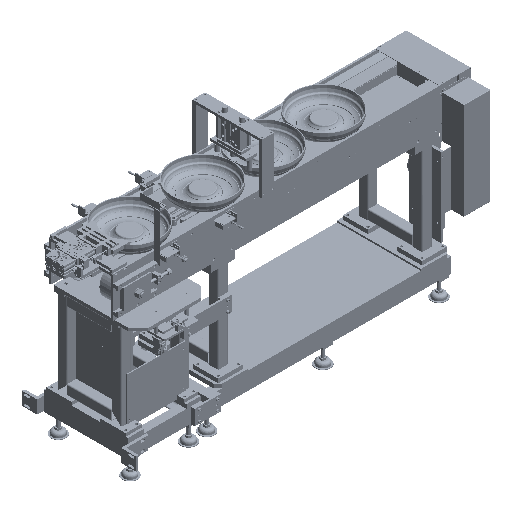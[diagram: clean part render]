
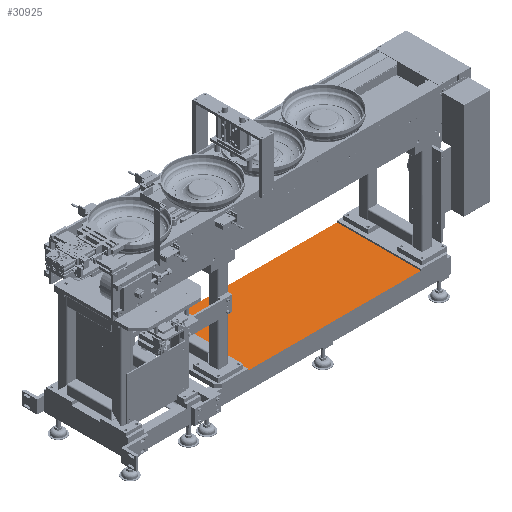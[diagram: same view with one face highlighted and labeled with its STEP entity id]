
A CAD part, isometric view. The second image highlights one B-rep face of the part: STEP entity #30925.
In plain terms, the highlighted planar face has unit normal (0, 0, 1).
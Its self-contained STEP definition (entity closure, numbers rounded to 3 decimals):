
#19256=PLANE('',#235498);
#30925=ADVANCED_FACE('',(#47912),#19256,.T.);
#47912=FACE_OUTER_BOUND('',#61005,.T.);
#61005=EDGE_LOOP('',(#129371,#129372,#129373,#129374));
#75746=LINE('',#352985,#92169);
#75748=LINE('',#352989,#92171);
#75750=LINE('',#352993,#92173);
#75752=LINE('',#352997,#92175);
#92169=VECTOR('',#274614,1.);
#92171=VECTOR('',#274618,1.);
#92173=VECTOR('',#274622,1.);
#92175=VECTOR('',#274626,1.);
#129371=ORIENTED_EDGE('',*,*,#198149,.F.);
#129372=ORIENTED_EDGE('',*,*,#198147,.F.);
#129373=ORIENTED_EDGE('',*,*,#198145,.F.);
#129374=ORIENTED_EDGE('',*,*,#198151,.F.);
#173382=VERTEX_POINT('',#352984);
#173383=VERTEX_POINT('',#352986);
#173384=VERTEX_POINT('',#352990);
#173385=VERTEX_POINT('',#352994);
#198145=EDGE_CURVE('',#173382,#173383,#75746,.T.);
#198147=EDGE_CURVE('',#173383,#173384,#75748,.T.);
#198149=EDGE_CURVE('',#173384,#173385,#75750,.T.);
#198151=EDGE_CURVE('',#173385,#173382,#75752,.T.);
#235498=AXIS2_PLACEMENT_3D('',#352999,#274629,#274630);
#274614=DIRECTION('',(-1.,0.,0.));
#274618=DIRECTION('',(0.,1.,0.));
#274622=DIRECTION('',(1.,0.,0.));
#274626=DIRECTION('',(0.,-1.,0.));
#274629=DIRECTION('',(0.,0.,1.));
#274630=DIRECTION('',(-1.,0.,0.));
#352984=CARTESIAN_POINT('',(207.5,-427.5,12.));
#352985=CARTESIAN_POINT('',(207.5,-427.5,12.));
#352986=CARTESIAN_POINT('',(-207.5,-427.5,12.));
#352989=CARTESIAN_POINT('',(-207.5,-427.5,12.));
#352990=CARTESIAN_POINT('',(-207.5,427.5,12.));
#352993=CARTESIAN_POINT('',(-207.5,427.5,12.));
#352994=CARTESIAN_POINT('',(207.5,427.5,12.));
#352997=CARTESIAN_POINT('',(207.5,0.,12.));
#352999=CARTESIAN_POINT('',(103.75,-213.75,12.));
